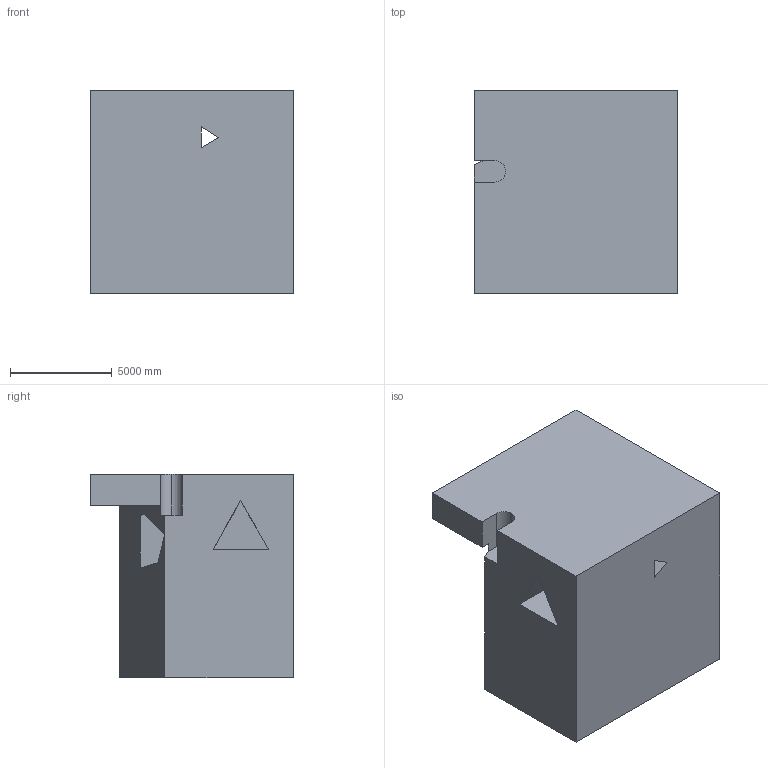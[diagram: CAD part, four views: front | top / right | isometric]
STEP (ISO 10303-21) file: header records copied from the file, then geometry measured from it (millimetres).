
FILE_DESCRIPTION (( 'STEP AP203' ), '1' );
FILE_NAME ('1479.STEP', '2022-08-18T14:43:29', ( 'user' ), ( '' ), 'SwSTEP 2.0', 'SolidWorks 2021', '' );
FILE_SCHEMA (( 'CONFIG_CONTROL_DESIGN' ));
Length unit declared in the file: centimetre
Products named in the file (1): 1479
Bounding box: 10000 x 10000 x 10000 mm (x, y, z)
Volume: 754589253732.5 mm3; surface area: 631452160.9 mm2
Topology: 1 solids, 1 shells, 30 faces, 79 edges, 52 vertices
Faces by surface type: plane 28, cylinder 2
Entity records: 996 total; most frequent: CARTESIAN_POINT 162, ORIENTED_EDGE 158, DIRECTION 145, EDGE_CURVE 79, VECTOR 75, LINE 75, VERTEX_POINT 52, AXIS2_PLACEMENT_3D 35
